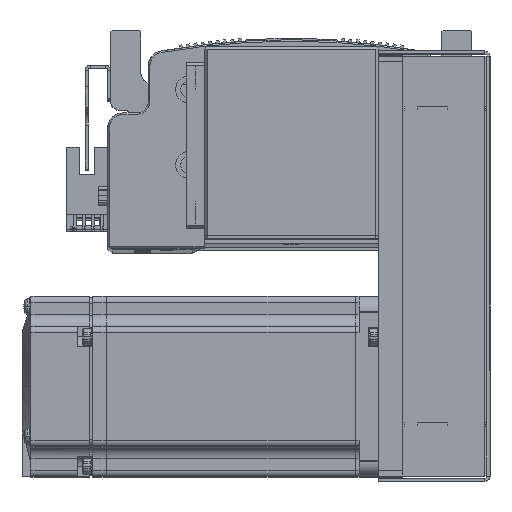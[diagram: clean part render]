
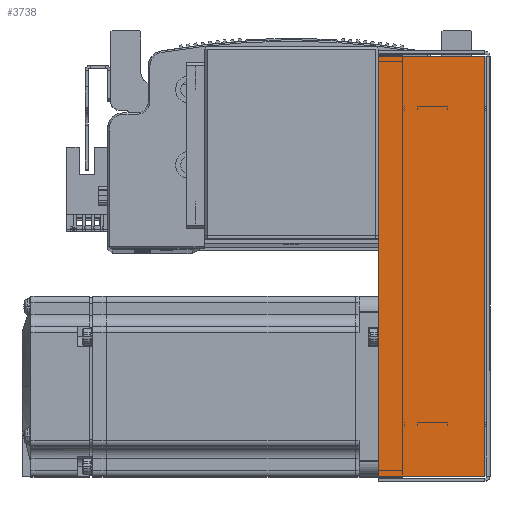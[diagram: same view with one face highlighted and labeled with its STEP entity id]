
A CAD part, top view. The second image highlights one B-rep face of the part: STEP entity #3738.
In plain terms, the highlighted planar face has unit normal (0, 0, 1).
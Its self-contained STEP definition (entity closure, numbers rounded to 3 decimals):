
#3010 = DIRECTION ( 'NONE',  ( -1., 0., 0. ) ) ;
#3030 = CARTESIAN_POINT ( 'NONE',  ( 0., 36., 33.5 ) ) ;
#3091 = DIRECTION ( 'NONE',  ( 0., 1., 0. ) ) ;
#3132 = CARTESIAN_POINT ( 'NONE',  ( -69.793, 0., 33.5 ) ) ;
#3136 = DIRECTION ( 'NONE',  ( 0., 1., 0. ) ) ;
#3145 = CARTESIAN_POINT ( 'NONE',  ( 69.793, 0., 33.5 ) ) ;
#3192 = CARTESIAN_POINT ( 'NONE',  ( -71.5, 0.737, 33.5 ) ) ;
#3222 = DIRECTION ( 'NONE',  ( -1., 0., 0. ) ) ;
#3738 = ADVANCED_FACE ( 'NONE', ( #58279 ), #82528, .F. ) ;
#11186 = VERTEX_POINT ( 'NONE', #81310 ) ;
#11207 = VERTEX_POINT ( 'NONE', #81346 ) ;
#11214 = VERTEX_POINT ( 'NONE', #81290 ) ;
#11230 = VERTEX_POINT ( 'NONE', #81366 ) ;
#16855 = ORIENTED_EDGE ( 'NONE', *, *, #39371, .T. ) ;
#16954 = ORIENTED_EDGE ( 'NONE', *, *, #39332, .T. ) ;
#16972 = ORIENTED_EDGE ( 'NONE', *, *, #39354, .F. ) ;
#16980 = ORIENTED_EDGE ( 'NONE', *, *, #39388, .F. ) ;
#30504 = EDGE_LOOP ( 'NONE', ( #16980, #16855, #16954, #16972 ) ) ;
#38070 = AXIS2_PLACEMENT_3D ( 'NONE', #82512, #82520, #82527 ) ;
#39332 = EDGE_CURVE ( 'NONE', #11214, #11230, #44400, .T. ) ;
#39354 = EDGE_CURVE ( 'NONE', #11207, #11230, #44378, .T. ) ;
#39371 = EDGE_CURVE ( 'NONE', #11186, #11214, #44460, .T. ) ;
#39388 = EDGE_CURVE ( 'NONE', #11186, #11207, #44474, .T. ) ;
#44378 = LINE ( 'NONE', #3132, #44384 ) ;
#44384 = VECTOR ( 'NONE', #3091, 1000. ) ;
#44393 = VECTOR ( 'NONE', #3010, 1000. ) ;
#44400 = LINE ( 'NONE', #3030, #44393 ) ;
#44445 = VECTOR ( 'NONE', #3136, 1000. ) ;
#44460 = LINE ( 'NONE', #3145, #44445 ) ;
#44474 = LINE ( 'NONE', #3192, #44476 ) ;
#44476 = VECTOR ( 'NONE', #3222, 1000. ) ;
#58279 = FACE_OUTER_BOUND ( 'NONE', #30504, .T. ) ;
#81290 = CARTESIAN_POINT ( 'NONE',  ( 69.793, 36., 33.5 ) ) ;
#81310 = CARTESIAN_POINT ( 'NONE',  ( 69.793, 0.737, 33.5 ) ) ;
#81346 = CARTESIAN_POINT ( 'NONE',  ( -69.793, 0.737, 33.5 ) ) ;
#81366 = CARTESIAN_POINT ( 'NONE',  ( -69.793, 36., 33.5 ) ) ;
#82512 = CARTESIAN_POINT ( 'NONE',  ( 0., 0., 33.5 ) ) ;
#82520 = DIRECTION ( 'NONE',  ( 0., 0., -1. ) ) ;
#82527 = DIRECTION ( 'NONE',  ( -1., 0., 0. ) ) ;
#82528 = PLANE ( 'NONE',  #38070 ) ;
